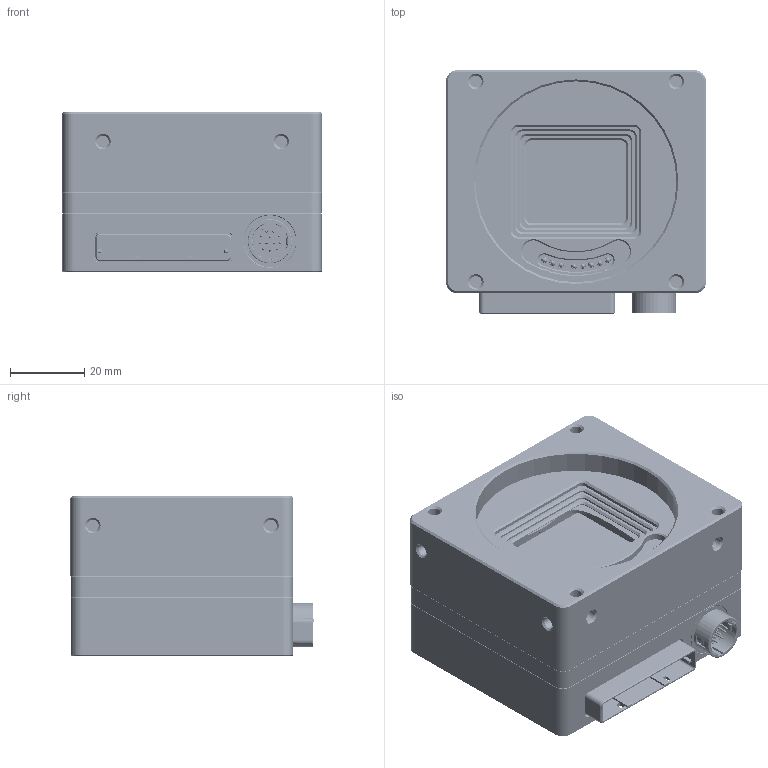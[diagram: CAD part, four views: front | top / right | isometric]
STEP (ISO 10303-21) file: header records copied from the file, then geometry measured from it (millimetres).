
FILE_DESCRIPTION(/* description */ (''),/* implementation_level */ '2;1');
FILE_NAME(/* name */ 'CB209xG-GP-X8G3.stp',/* time_stamp */ '2022-10-03T12:45:56+02:00',/* author */ (''),/* organization */ (''),/* preprocessor_version */ 'ST-DEVELOPER v18.102',/* originating_system */ 'SIEMENS PLM Software NX2206.3001',/* authorisation */ '');
FILE_SCHEMA (('AUTOMOTIVE_DESIGN { 1 0 10303 214 3 1 1 1 }'));
Products named in the file (27): 60-30-1112-nut; MECH-LIGHTPIPE-1.63X4.14; -315K; CB-X8G3-MAIN-PCA-LW; CB-X8G3-CONN-PCA; SROB-M2X3-IMBUS-STNLS; SROB-M2X6-IMBUS-STNLS; CONN-0745400101; MECH-CB209-X8G3-MID; SROB-M2X4-IMBUS-STNLS; SROB-M2X3-IMB-BTN-STNLS; CB-EFLENS-CTRL-PCA-LW; MECH-CB654-ANTIDUST-GSKT; SROB-M2X4-NYLON-ECCENTRIC; MECH-O-RING-2X1; SROB-M2.5X10-IMB-BTN-STNLS; WSHR-M2.5-0.5MM-NYLON; MECH-CB209-X8G3-FRONT; GSPRINT4521; SROB-M6X8-SSH-SD-EL; SROB-M2X23-IMBUS-STNLS-CU; CONN-60-30-1112_MODEL; MECH-CB-X8G3-REAR-LP_MODEL; CB-X8G3-REAR-SUBASSM-C-LW; GSPRINT-GP-X8G3-SENS-PCA-LW_MODEL; CB209xG-GP-X8G3-FRONT-LW; CB209xG-GP-X8G3-LW
Assembly tree (85 placements, depth 4):
  CB209xG-GP-X8G3-LW
    CB209xG-GP-X8G3-FRONT-LW
      GSPRINT-GP-X8G3-SENS-PCA-LW_MODEL
        -315K  x32
      GSPRINT4521
      MECH-CB209-X8G3-FRONT
      WSHR-M2.5-0.5MM-NYLON  x4
      SROB-M2.5X10-IMB-BTN-STNLS  x4
      MECH-O-RING-2X1  x4
      SROB-M2X4-NYLON-ECCENTRIC  x4
      MECH-CB654-ANTIDUST-GSKT
      CB-EFLENS-CTRL-PCA-LW
      SROB-M2X3-IMB-BTN-STNLS  x2
      SROB-M2X4-IMBUS-STNLS  x4
      MECH-CB209-X8G3-MID
    CB-X8G3-REAR-SUBASSM-C-LW
      MECH-CB-X8G3-REAR-LP_MODEL
        MECH-LIGHTPIPE-1.63X4.14  x4
      CONN-0745400101
      SROB-M2X6-IMBUS-STNLS  x4
      SROB-M2X3-IMBUS-STNLS  x2
      SROB-M2X4-IMBUS-STNLS  x2
      CB-X8G3-CONN-PCA
      CONN-60-30-1112_MODEL
        60-30-1112-nut
      CB-X8G3-MAIN-PCA-LW
    SROB-M2X23-IMBUS-STNLS-CU  x4
    SROB-M6X8-SSH-SD-EL
Bounding box: 70 x 65.47 x 43.11 mm (x, y, z)
Volume: 100860.7 mm3; surface area: 100158.1 mm2
Topology: 1075 solids, 1142 shells, 39202 faces, 102882 edges, 67756 vertices
Faces by surface type: plane 31106, cylinder 6902, cone 970, bspline 116, torus 73, sphere 16, revolution 10, extrusion 9
Full cylindrical faces by diameter (mm): 0.3 x454, 0.51 x32, 0.53 x12, 0.55 x35, 0.6 x57, 0.65 x24, 0.89 x32, 0.9 x16, 0.95 x518, 0.97 x454, 1 x14, 1.07 x32, 1.1 x12, 1.2 x12, 1.3 x20, 1.32 x2, 1.45 x4, 1.55 x4, 1.6 x20, 2 x40, 2.1 x26, 2.5 x8, 2.7 x4, 3.2 x12, 3.5 x2, 3.8 x16, 4.1 x8, 4.5 x4, 5.1 x1, 6 x5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
Entity records: 1387780 total; most frequent: CARTESIAN_POINT 225311, ORIENTED_EDGE 197944, DIRECTION 191317, EDGE_CURVE 99056, VECTOR 79903, LINE 79900, VERTEX_POINT 66189, AXIS2_PLACEMENT_3D 55702
